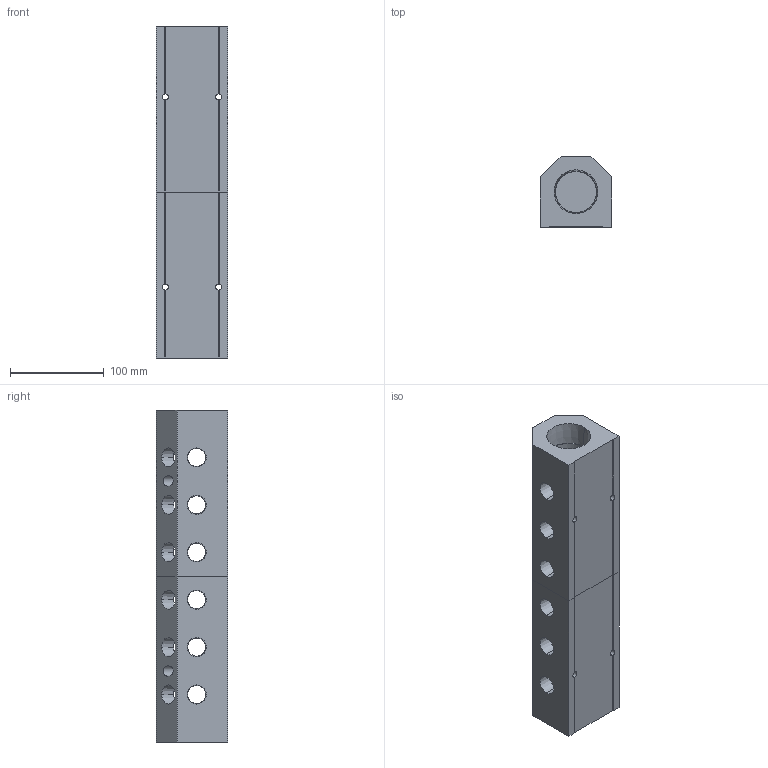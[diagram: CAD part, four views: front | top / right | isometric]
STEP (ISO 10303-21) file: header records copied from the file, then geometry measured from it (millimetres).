
FILE_DESCRIPTION (( 'STEP AP214' ), '1' );
FILE_NAME ('ALM6ABCDE-N8N24-355RB.step', '2022-02-07T09:39:39', ( '' ), ( '' ), 'SwSTEP 2.0', 'SolidWorks 2020', '' );
FILE_SCHEMA (( 'AUTOMOTIVE_DESIGN' ));
Length unit declared in the file: millimetre
Products named in the file (1): ALM6ABCDE-N8N24-355RB
Bounding box: 76.2 x 76.2 x 355 mm (x, y, z)
Volume: 1163426.2 mm3; surface area: 188485 mm2
Topology: 2 solids, 2 shells, 430 faces, 1240 edges, 824 vertices
Faces by surface type: plane 248, bspline 92, cone 64, cylinder 26
Entity records: 26459 total; most frequent: CARTESIAN_POINT 11831, ORIENTED_EDGE 2480, DIRECTION 1662, EDGE_CURVE 1240, VERTEX_POINT 824, VECTOR 784, LINE 784, EDGE_LOOP 508
